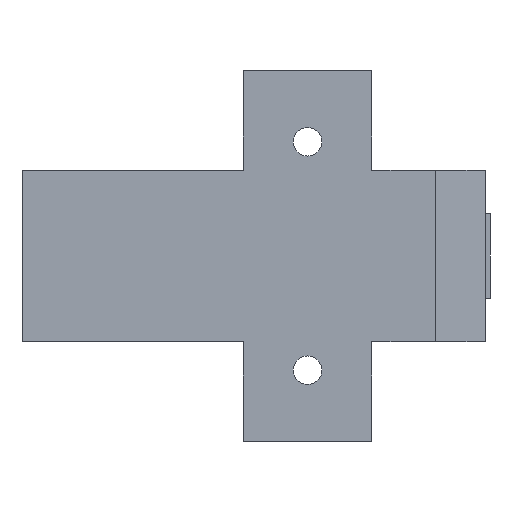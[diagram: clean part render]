
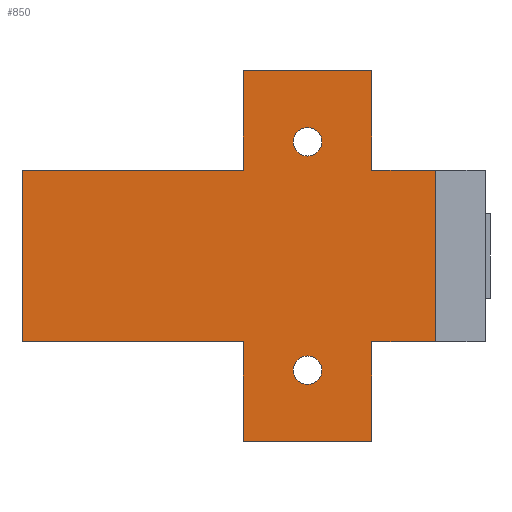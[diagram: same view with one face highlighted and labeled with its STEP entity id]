
A CAD part, left-side view. The second image highlights one B-rep face of the part: STEP entity #850.
In plain terms, the highlighted planar face has unit normal (-1, 0, 0).
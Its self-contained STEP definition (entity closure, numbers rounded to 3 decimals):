
#529 = ORIENTED_EDGE ( 'NONE', *, *, #1188, .F. ) ;
#530 = ORIENTED_EDGE ( 'NONE', *, *, #1207, .F. ) ;
#531 = ORIENTED_EDGE ( 'NONE', *, *, #1202, .T. ) ;
#532 = ORIENTED_EDGE ( 'NONE', *, *, #1187, .T. ) ;
#533 = ORIENTED_EDGE ( 'NONE', *, *, #1186, .T. ) ;
#534 = ORIENTED_EDGE ( 'NONE', *, *, #1168, .T. ) ;
#535 = ORIENTED_EDGE ( 'NONE', *, *, #1185, .F. ) ;
#536 = ORIENTED_EDGE ( 'NONE', *, *, #1184, .F. ) ;
#537 = ORIENTED_EDGE ( 'NONE', *, *, #1183, .F. ) ;
#538 = ORIENTED_EDGE ( 'NONE', *, *, #1182, .T. ) ;
#539 = ORIENTED_EDGE ( 'NONE', *, *, #1181, .F. ) ;
#540 = ORIENTED_EDGE ( 'NONE', *, *, #1180, .F. ) ;
#541 = ORIENTED_EDGE ( 'NONE', *, *, #1172, .F. ) ;
#542 = ORIENTED_EDGE ( 'NONE', *, *, #1179, .F. ) ;
#543 = ORIENTED_EDGE ( 'NONE', *, *, #1176, .T. ) ;
#544 = ORIENTED_EDGE ( 'NONE', *, *, #1178, .F. ) ;
#588 = LINE ( 'NONE', #590, #2823 ) ;
#589 = LINE ( 'NONE', #613, #2718 ) ;
#590 = CARTESIAN_POINT ( 'NONE',  ( 0., -9., -26. ) ) ;
#591 = DIRECTION ( 'NONE',  ( 0., 0., 1. ) ) ;
#600 = LINE ( 'NONE', #601, #2757 ) ;
#601 = CARTESIAN_POINT ( 'NONE',  ( 0., -5.007, -12. ) ) ;
#602 = DIRECTION ( 'NONE',  ( 0., 1., 0. ) ) ;
#607 = LINE ( 'NONE', #627, #2762 ) ;
#611 = LINE ( 'NONE', #638, #3083 ) ;
#613 = CARTESIAN_POINT ( 'NONE',  ( 0., -5.007, 12. ) ) ;
#614 = DIRECTION ( 'NONE',  ( 0., 1., 0. ) ) ;
#618 = LINE ( 'NONE', #619, #2752 ) ;
#619 = CARTESIAN_POINT ( 'NONE',  ( 0., 9., -26. ) ) ;
#620 = DIRECTION ( 'NONE',  ( 0., 0., 1. ) ) ;
#621 = LINE ( 'NONE', #622, #2809 ) ;
#622 = CARTESIAN_POINT ( 'NONE',  ( 0., 40., -12. ) ) ;
#623 = DIRECTION ( 'NONE',  ( 0., 0., 1. ) ) ;
#624 = LINE ( 'NONE', #625, #2831 ) ;
#625 = CARTESIAN_POINT ( 'NONE',  ( 0., 9., -26. ) ) ;
#626 = DIRECTION ( 'NONE',  ( 0., 0., 1. ) ) ;
#627 = CARTESIAN_POINT ( 'NONE',  ( 0., -9., -26. ) ) ;
#628 = DIRECTION ( 'NONE',  ( 0., 1., 0. ) ) ;
#629 = LINE ( 'NONE', #630, #2774 ) ;
#630 = CARTESIAN_POINT ( 'NONE',  ( 0., -9., -26. ) ) ;
#631 = DIRECTION ( 'NONE',  ( 0., 0., 1. ) ) ;
#632 = LINE ( 'NONE', #633, #3024 ) ;
#633 = CARTESIAN_POINT ( 'NONE',  ( 0., -9., -12. ) ) ;
#634 = DIRECTION ( 'NONE',  ( 0., 1., 0. ) ) ;
#635 = LINE ( 'NONE', #636, #3017 ) ;
#636 = CARTESIAN_POINT ( 'NONE',  ( 0., -17.9, 38.015 ) ) ;
#637 = DIRECTION ( 'NONE',  ( 0., 0., -1. ) ) ;
#638 = CARTESIAN_POINT ( 'NONE',  ( 0., -9., 12. ) ) ;
#639 = DIRECTION ( 'NONE',  ( 0., -1., 0. ) ) ;
#640 = LINE ( 'NONE', #641, #2846 ) ;
#641 = CARTESIAN_POINT ( 'NONE',  ( 0., -9., 26. ) ) ;
#642 = DIRECTION ( 'NONE',  ( 0., 1., 0. ) ) ;
#645 = CARTESIAN_POINT ( 'NONE',  ( 0., 0., 16. ) ) ;
#646 = DIRECTION ( 'NONE',  ( 1., 0., 0. ) ) ;
#647 = DIRECTION ( 'NONE',  ( 0., 0., -1. ) ) ;
#649 = CARTESIAN_POINT ( 'NONE',  ( 0., 0., -16. ) ) ;
#650 = DIRECTION ( 'NONE',  ( -1., 0., 0. ) ) ;
#651 = DIRECTION ( 'NONE',  ( 0., 0., 1. ) ) ;
#691 = CARTESIAN_POINT ( 'NONE',  ( 0., 0., 16. ) ) ;
#692 = DIRECTION ( 'NONE',  ( 1., 0., 0. ) ) ;
#693 = DIRECTION ( 'NONE',  ( 0., 0., -1. ) ) ;
#707 = CARTESIAN_POINT ( 'NONE',  ( 0., 0., -16. ) ) ;
#708 = DIRECTION ( 'NONE',  ( -1., 0., 0. ) ) ;
#709 = DIRECTION ( 'NONE',  ( 0., 0., 1. ) ) ;
#831 = CARTESIAN_POINT ( 'NONE',  ( 0., 0., 14. ) ) ;
#850 = ADVANCED_FACE ( 'NONE', ( #2567, #2562, #2570 ), #2571, .F. ) ;
#1168 = EDGE_CURVE ( 'NONE', #2001, #1995, #588, .T. ) ;
#1172 = EDGE_CURVE ( 'NONE', #1997, #1991, #600, .T. ) ;
#1176 = EDGE_CURVE ( 'NONE', #3303, #3293, #589, .T. ) ;
#1178 = EDGE_CURVE ( 'NONE', #3303, #1999, #618, .T. ) ;
#1179 = EDGE_CURVE ( 'NONE', #1991, #3293, #621, .T. ) ;
#1180 = EDGE_CURVE ( 'NONE', #1996, #1997, #624, .T. ) ;
#1181 = EDGE_CURVE ( 'NONE', #3240, #1996, #607, .T. ) ;
#1182 = EDGE_CURVE ( 'NONE', #3240, #3254, #629, .T. ) ;
#1183 = EDGE_CURVE ( 'NONE', #3257, #3254, #632, .T. ) ;
#1184 = EDGE_CURVE ( 'NONE', #3239, #3257, #635, .T. ) ;
#1185 = EDGE_CURVE ( 'NONE', #2001, #3239, #611, .T. ) ;
#1186 = EDGE_CURVE ( 'NONE', #1995, #1999, #640, .T. ) ;
#1187 = EDGE_CURVE ( 'NONE', #3197, #3193, #2872, .T. ) ;
#1188 = EDGE_CURVE ( 'NONE', #3206, #3205, #3002, .T. ) ;
#1202 = EDGE_CURVE ( 'NONE', #3193, #3197, #2949, .T. ) ;
#1207 = EDGE_CURVE ( 'NONE', #3205, #3206, #2955, .T. ) ;
#1251 = CARTESIAN_POINT ( 'NONE',  ( 0., 0., -18. ) ) ;
#1252 = CARTESIAN_POINT ( 'NONE',  ( 0., 0., -14. ) ) ;
#1285 = CARTESIAN_POINT ( 'NONE',  ( 0., -17.9, 12. ) ) ;
#1286 = CARTESIAN_POINT ( 'NONE',  ( 0., -9., -26. ) ) ;
#1300 = CARTESIAN_POINT ( 'NONE',  ( 0., -9., -12. ) ) ;
#1303 = CARTESIAN_POINT ( 'NONE',  ( 0., -17.9, -12. ) ) ;
#1339 = CARTESIAN_POINT ( 'NONE',  ( 0., 40., 12. ) ) ;
#1349 = CARTESIAN_POINT ( 'NONE',  ( 0., 9., 12. ) ) ;
#1656 = CARTESIAN_POINT ( 'NONE',  ( 0., 40., -12. ) ) ;
#1660 = CARTESIAN_POINT ( 'NONE',  ( 0., -9., 26. ) ) ;
#1661 = CARTESIAN_POINT ( 'NONE',  ( 0., 9., -26. ) ) ;
#1662 = CARTESIAN_POINT ( 'NONE',  ( 0., 9., -12. ) ) ;
#1664 = CARTESIAN_POINT ( 'NONE',  ( 0., 9., 26. ) ) ;
#1666 = CARTESIAN_POINT ( 'NONE',  ( 0., -9., 12. ) ) ;
#1711 = CARTESIAN_POINT ( 'NONE',  ( 0., 0., 18. ) ) ;
#1991 = VERTEX_POINT ( 'NONE', #1656 ) ;
#1995 = VERTEX_POINT ( 'NONE', #1660 ) ;
#1996 = VERTEX_POINT ( 'NONE', #1661 ) ;
#1997 = VERTEX_POINT ( 'NONE', #1662 ) ;
#1999 = VERTEX_POINT ( 'NONE', #1664 ) ;
#2001 = VERTEX_POINT ( 'NONE', #1666 ) ;
#2050 = EDGE_LOOP ( 'NONE', ( #544, #543, #542, #541, #540, #539, #538, #537, #536, #535, #534, #533 ) ) ;
#2051 = EDGE_LOOP ( 'NONE', ( #530, #529 ) ) ;
#2053 = EDGE_LOOP ( 'NONE', ( #532, #531 ) ) ;
#2562 = FACE_BOUND ( 'NONE', #2053, .T. ) ;
#2564 = DIRECTION ( 'NONE',  ( 1., 0., 0. ) ) ;
#2567 = FACE_OUTER_BOUND ( 'NONE', #2050, .T. ) ;
#2568 = CARTESIAN_POINT ( 'NONE',  ( 0., -5.007, -12. ) ) ;
#2570 = FACE_BOUND ( 'NONE', #2051, .T. ) ;
#2571 = PLANE ( 'NONE',  #3039 ) ;
#2572 = DIRECTION ( 'NONE',  ( 0., 0., -1. ) ) ;
#2718 = VECTOR ( 'NONE', #614, 1000. ) ;
#2752 = VECTOR ( 'NONE', #620, 1000. ) ;
#2757 = VECTOR ( 'NONE', #602, 1000. ) ;
#2762 = VECTOR ( 'NONE', #628, 1000. ) ;
#2769 = AXIS2_PLACEMENT_3D ( 'NONE', #645, #646, #647 ) ;
#2773 = AXIS2_PLACEMENT_3D ( 'NONE', #649, #650, #651 ) ;
#2774 = VECTOR ( 'NONE', #631, 1000. ) ;
#2786 = AXIS2_PLACEMENT_3D ( 'NONE', #691, #692, #693 ) ;
#2809 = VECTOR ( 'NONE', #623, 1000. ) ;
#2823 = VECTOR ( 'NONE', #591, 1000. ) ;
#2831 = VECTOR ( 'NONE', #626, 1000. ) ;
#2835 = AXIS2_PLACEMENT_3D ( 'NONE', #707, #708, #709 ) ;
#2846 = VECTOR ( 'NONE', #642, 1000. ) ;
#2872 = CIRCLE ( 'NONE', #2769, 2. ) ;
#2949 = CIRCLE ( 'NONE', #2786, 2. ) ;
#2955 = CIRCLE ( 'NONE', #2835, 2. ) ;
#3002 = CIRCLE ( 'NONE', #2773, 2. ) ;
#3017 = VECTOR ( 'NONE', #637, 1000. ) ;
#3024 = VECTOR ( 'NONE', #634, 1000. ) ;
#3039 = AXIS2_PLACEMENT_3D ( 'NONE', #2568, #2564, #2572 ) ;
#3083 = VECTOR ( 'NONE', #639, 1000. ) ;
#3193 = VERTEX_POINT ( 'NONE', #1711 ) ;
#3197 = VERTEX_POINT ( 'NONE', #831 ) ;
#3205 = VERTEX_POINT ( 'NONE', #1251 ) ;
#3206 = VERTEX_POINT ( 'NONE', #1252 ) ;
#3239 = VERTEX_POINT ( 'NONE', #1285 ) ;
#3240 = VERTEX_POINT ( 'NONE', #1286 ) ;
#3254 = VERTEX_POINT ( 'NONE', #1300 ) ;
#3257 = VERTEX_POINT ( 'NONE', #1303 ) ;
#3293 = VERTEX_POINT ( 'NONE', #1339 ) ;
#3303 = VERTEX_POINT ( 'NONE', #1349 ) ;
